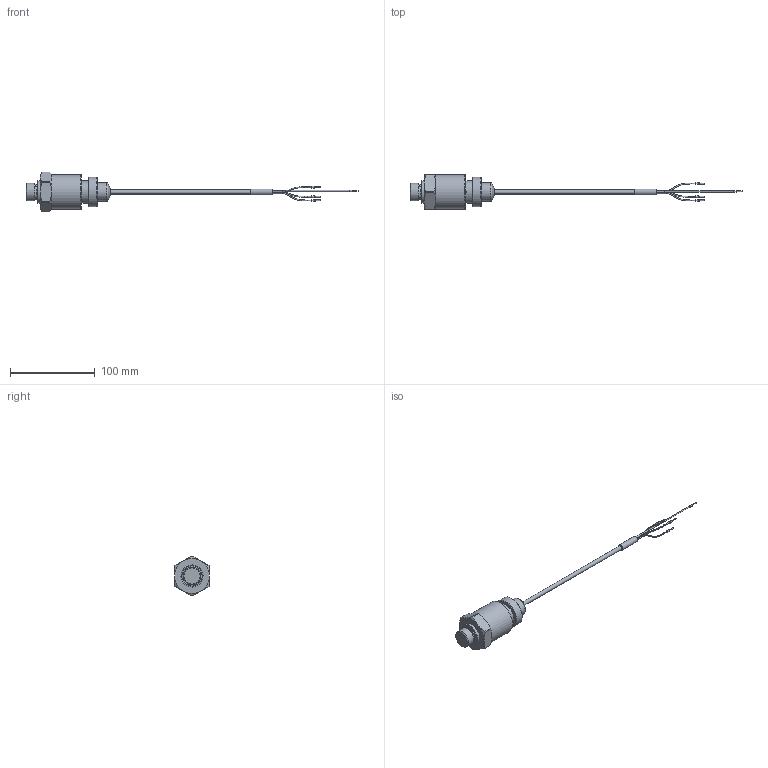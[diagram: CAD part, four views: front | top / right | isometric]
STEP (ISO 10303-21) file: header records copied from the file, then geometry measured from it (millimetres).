
FILE_DESCRIPTION(/* description */ (''),/* implementation_level */ '2;1');
FILE_NAME(/* name */ 'W:\Veřejné dokumenty\3D modely výrobků\DMK351_G1-2_DIN3852_TR0_standard.stp',/* time_stamp */ '2015-04-21T14:02:29+02:00',/* author */ ('cz1166'),/* organization */ (''),/* preprocessor_version */ 'ST-DEVELOPER v15.2',/* originating_system */ 'Autodesk Inventor 2014',/* authorisation */ '');
FILE_SCHEMA (('AUTOMOTIVE_DESIGN { 1 0 10303 214 3 1 1 }'));
Length unit declared in the file: millimetre
Products named in the file (1): DMK351_G1-2_DIN3852_TR0_standard
Bounding box: 391.4 x 41 x 47 mm (x, y, z)
Volume: 95230.6 mm3; surface area: 17934 mm2
Topology: 1 solids, 1 shells, 88 faces, 172 edges, 103 vertices
Faces by surface type: cylinder 32, plane 25, cone 21, torus 6, bspline 4
Full cylindrical faces by diameter (mm): 1 x6, 1.1 x4, 1.45 x1, 2.1 x1, 2.2 x4, 4.8 x1, 7 x1, 18.4 x1, 20.955 x1, 21.4 x1, 26 x1, 26.5 x1, 35 x1, 41 x1
Entity records: 2657 total; most frequent: CARTESIAN_POINT 886, DIRECTION 352, ORIENTED_EDGE 258, AXIS2_PLACEMENT_3D 170, EDGE_LOOP 144, EDGE_CURVE 129, VERTEX_POINT 99, ADVANCED_FACE 88
